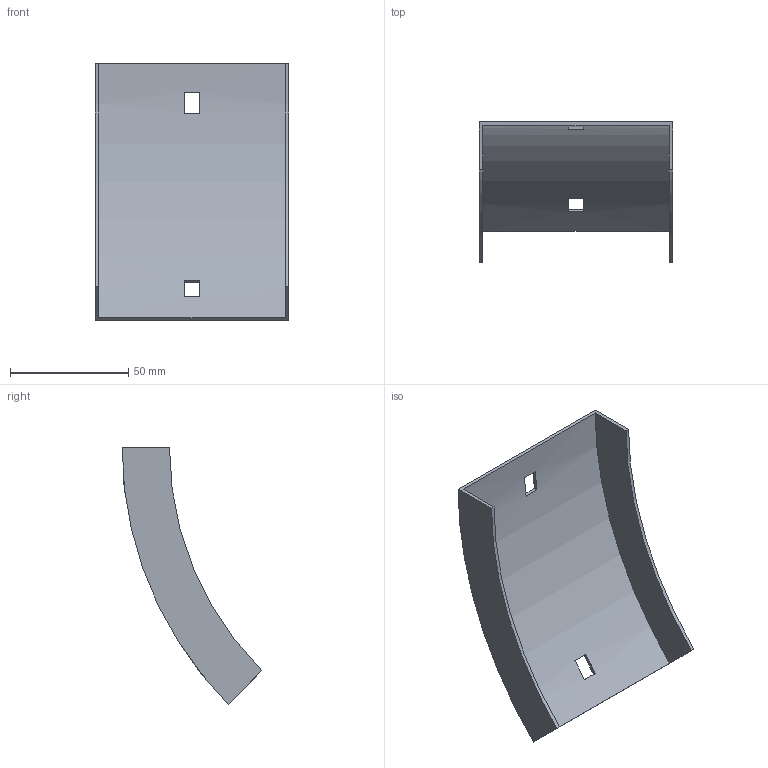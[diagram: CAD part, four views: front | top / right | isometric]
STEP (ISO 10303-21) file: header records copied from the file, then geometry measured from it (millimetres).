
FILE_DESCRIPTION (( 'STEP AP214' ), '1' );
FILE_NAME ('34N1B075.step', '2025-02-21T09:14:43', ( '' ), ( '' ), 'SwSTEP 2.0', 'SolidWorks 2023', '' );
FILE_SCHEMA (( 'AUTOMOTIVE_DESIGN' ));
Length unit declared in the file: millimetre
Products named in the file (1): 34N1B075
Bounding box: 82 x 59.1 x 108.54 mm (x, y, z)
Volume: 20802.1 mm3; surface area: 28503 mm2
Topology: 1 solids, 1 shells, 18 faces, 48 edges, 32 vertices
Faces by surface type: plane 14, cylinder 4
Entity records: 599 total; most frequent: DIRECTION 102, CARTESIAN_POINT 99, ORIENTED_EDGE 96, EDGE_CURVE 48, AXIS2_PLACEMENT_3D 35, VECTOR 32, VERTEX_POINT 32, LINE 32
